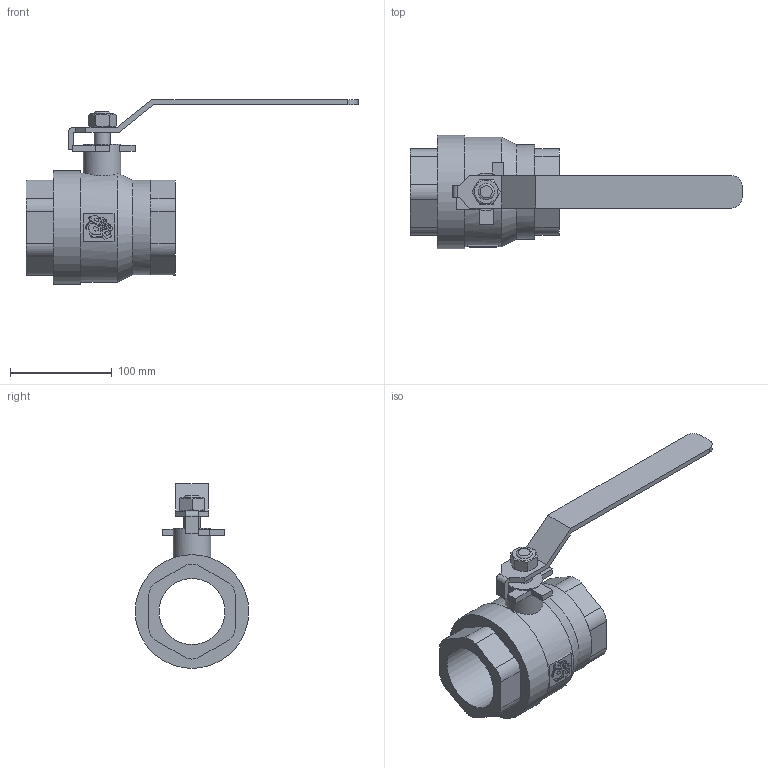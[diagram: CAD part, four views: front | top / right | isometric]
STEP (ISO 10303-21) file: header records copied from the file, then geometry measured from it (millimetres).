
FILE_DESCRIPTION(('STEP AP203'), '1');
FILE_NAME('7014-065-63', '', ('UNSPECIFIED'), ('UNSPECIFIED'), 'C3D Converter', 'C3D Toolkit', '');
FILE_SCHEMA(('CONFIG_CONTROL_DESIGN'));
Length unit declared in the file: millimetre
Bounding box: 327 x 112 x 182 mm (x, y, z)
Volume: 768323.6 mm3; surface area: 120545.6 mm2
Topology: 10 solids, 10 shells, 933 faces, 2709 edges, 1803 vertices
Faces by surface type: plane 908, cylinder 21, cone 3, torus 1
Full cylindrical faces by diameter (mm): 16 x1, 37 x1, 65 x1, 93 x1, 108 x1, 112 x1
Entity records: 38549 total; most frequent: CARTESIAN_POINT 6317, ORIENTED_EDGE 5396, DIRECTION 4636, EDGE_CURVE 2698, LINE 2588, VECTOR 2588, VERTEX_POINT 1803, AXIS2_PLACEMENT_3D 1024
